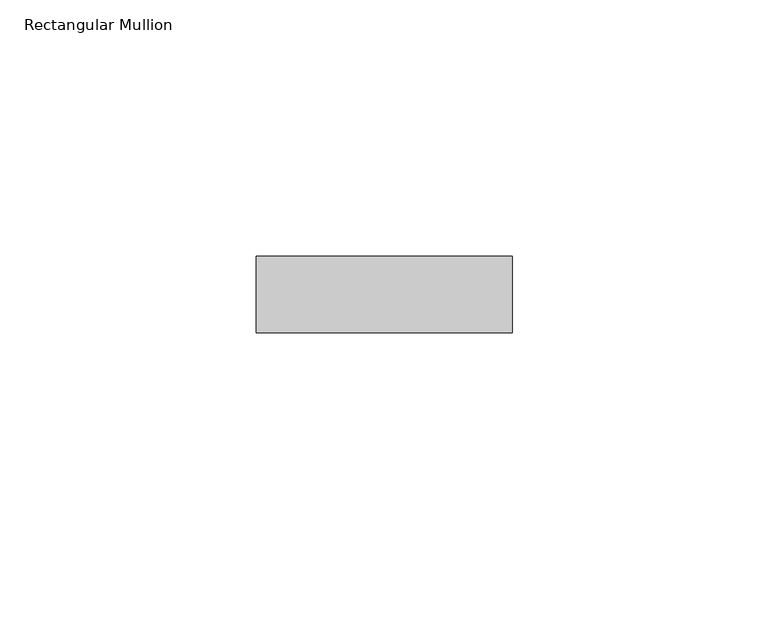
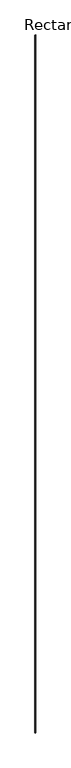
"""IFC4 building model written with IfcOpenShell, lengths in millimetres: member geometry, Rectangular Mullion : Ripa."""

from ifc_helpers import new_model, si_unit, frame, origin, place, context, project, spatial, polyline, outline, extrude, source, transform, mapped, element, save


def rectangular_mullion_d1940fe2(model_context):
    return source(origin(), model_context, "Body", "SweptSolid", [
        extrude(outline(polyline([(-50.0, -75.0), (-50.0, -60.0), (0.0, -60.0), (0.0, -75.0), (-50.0, -75.0)])), frame((0.0, 0.0, -46920.4270994), z_axis=(0.0, 0.0, 1.0), x_axis=(1.0, 0.0, 0.0)), (0.0, 0.0, 1.0), 46920.4270994),
    ])


if __name__ == "__main__":
    model = new_model("IFC4")
    model_context = context("Model", 3, world=origin())
    ifc_project = project(units=[si_unit("LENGTHUNIT", "METRE", prefix="MILLI")], contexts=[model_context])
    site = spatial("IfcSite", under=ifc_project)
    building = spatial("IfcBuilding", under=site)
    placement = place(None, origin())
    rectangular_mullion_shape = rectangular_mullion_d1940fe2(model_context)
    element("IfcMember", 1, ObjectType="Rectangular Mullion : Ripa", at=placement, inside=building, context=model_context, shape_type="MappedRepresentation", body=[
        mapped(rectangular_mullion_shape, transform((0.0, 0.0, 0.0), x_axis=(1.0, 0.0, 0.0), y_axis=(0.0, 1.0, 0.0), z_axis=(0.0, 0.0, 1.0))),
    ])
    save(model, "model.ifc")
